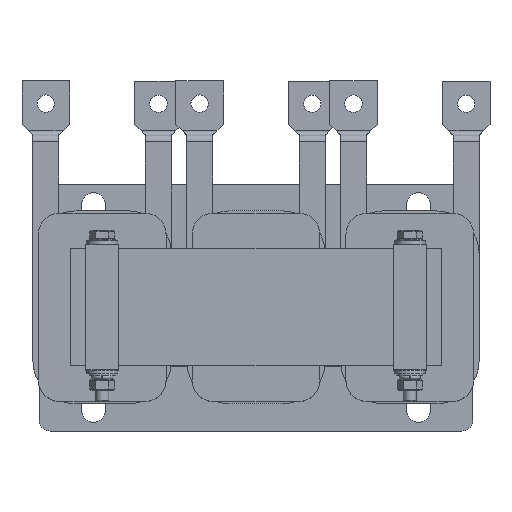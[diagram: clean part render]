
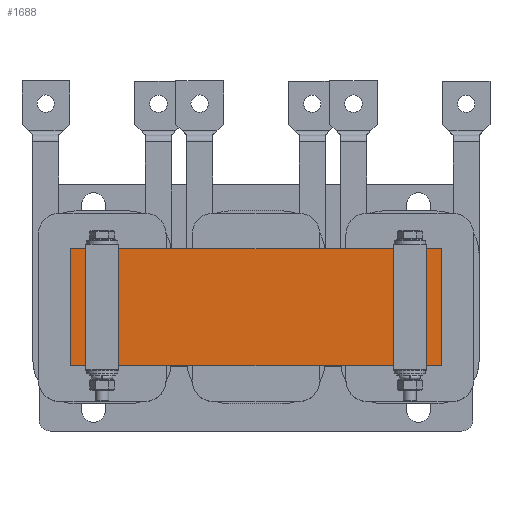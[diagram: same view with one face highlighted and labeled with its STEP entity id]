
A CAD part, top view. The second image highlights one B-rep face of the part: STEP entity #1688.
In plain terms, the highlighted planar face has unit normal (0, 0, 1).
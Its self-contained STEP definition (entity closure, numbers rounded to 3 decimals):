
#1688=ADVANCED_FACE('',(#2439),#2441,.T.);
#2439=FACE_BOUND('',#2440,.T.);
#2440=EDGE_LOOP('',(#3569,#3570,#3571,#3572));
#2441=PLANE('',#2442);
#2442=AXIS2_PLACEMENT_3D('',#2443,#2444,#2445);
#2443=CARTESIAN_POINT('',(0.,0.,30.));
#2444=DIRECTION('',(0.,0.,1.));
#2445=DIRECTION('',(-1.,0.,0.));
#3569=ORIENTED_EDGE('',*,*,#4137,.T.);
#3570=ORIENTED_EDGE('',*,*,#4131,.T.);
#3571=ORIENTED_EDGE('',*,*,#4138,.T.);
#3572=ORIENTED_EDGE('',*,*,#4125,.T.);
#4125=EDGE_CURVE('',#4650,#4648,#4651,.T.);
#4131=EDGE_CURVE('',#4662,#4660,#4663,.T.);
#4137=EDGE_CURVE('',#4648,#4662,#4671,.T.);
#4138=EDGE_CURVE('',#4660,#4650,#4672,.T.);
#4648=VERTEX_POINT('',#5756);
#4650=VERTEX_POINT('',#5760);
#4651=LINE('',#5761,#5762);
#4660=VERTEX_POINT('',#5782);
#4662=VERTEX_POINT('',#5786);
#4663=LINE('',#5787,#5788);
#4671=LINE('',#5809,#5810);
#4672=LINE('',#5812,#5813);
#5756=CARTESIAN_POINT('',(-85.5,27.,30.));
#5760=CARTESIAN_POINT('',(85.5,27.,30.));
#5761=CARTESIAN_POINT('',(85.5,27.,30.));
#5762=VECTOR('',#5763,1.);
#5763=DIRECTION('',(-1.,0.,0.));
#5782=CARTESIAN_POINT('',(85.5,-27.,30.));
#5786=CARTESIAN_POINT('',(-85.5,-27.,30.));
#5787=CARTESIAN_POINT('',(-85.5,-27.,30.));
#5788=VECTOR('',#5789,1.);
#5789=DIRECTION('',(1.,0.,0.));
#5809=CARTESIAN_POINT('',(-85.5,27.,30.));
#5810=VECTOR('',#5811,1.);
#5811=DIRECTION('',(0.,-1.,0.));
#5812=CARTESIAN_POINT('',(85.5,-27.,30.));
#5813=VECTOR('',#5814,1.);
#5814=DIRECTION('',(0.,1.,0.));
